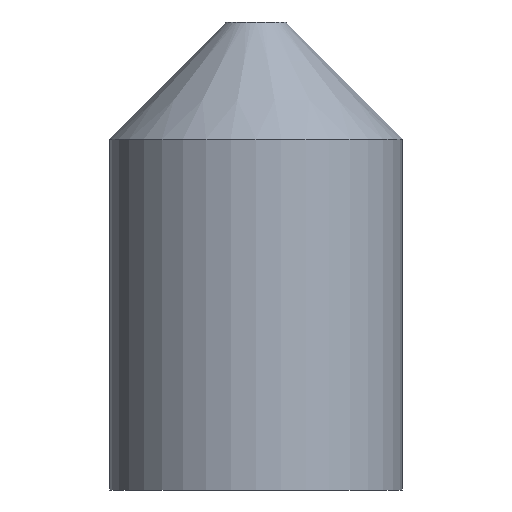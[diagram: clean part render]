
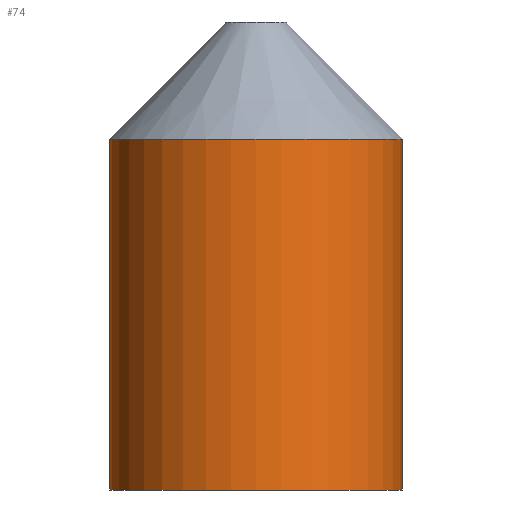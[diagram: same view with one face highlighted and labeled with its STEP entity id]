
A CAD part, front view. The second image highlights one B-rep face of the part: STEP entity #74.
In plain terms, the highlighted cylindrical face has radius 2.5 mm (diameter 5 mm), a partial arc.
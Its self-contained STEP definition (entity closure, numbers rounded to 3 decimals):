
#2 = DIRECTION ( 'NONE',  ( -1., 0., 0. ) ) ;
#3 = CARTESIAN_POINT ( 'NONE',  ( -6.221, 7.015, 8. ) ) ;
#4 = EDGE_CURVE ( 'NONE', #25, #109, #34, .T. ) ;
#9 = AXIS2_PLACEMENT_3D ( 'NONE', #243, #332, #408 ) ;
#23 = VECTOR ( 'NONE', #254, 1000. ) ;
#25 = VERTEX_POINT ( 'NONE', #241 ) ;
#34 = CIRCLE ( 'NONE', #9, 2.5 ) ;
#35 = DIRECTION ( 'NONE',  ( 0., 0., 1. ) ) ;
#63 = CARTESIAN_POINT ( 'NONE',  ( -11.221, 7.015, 6. ) ) ;
#64 = CARTESIAN_POINT ( 'NONE',  ( -8.721, 7.015, 0. ) ) ;
#65 = DIRECTION ( 'NONE',  ( 0., 0., -1. ) ) ;
#71 = EDGE_CURVE ( 'NONE', #276, #430, #238, .T. ) ;
#74 = ADVANCED_FACE ( 'NONE', ( #84 ), #288, .T. ) ;
#79 = AXIS2_PLACEMENT_3D ( 'NONE', #98, #131, #2 ) ;
#84 = FACE_OUTER_BOUND ( 'NONE', #191, .T. ) ;
#90 = VECTOR ( 'NONE', #65, 1000. ) ;
#98 = CARTESIAN_POINT ( 'NONE',  ( -8.721, 7.015, 8. ) ) ;
#100 = EDGE_CURVE ( 'NONE', #25, #430, #423, .T. ) ;
#106 = ORIENTED_EDGE ( 'NONE', *, *, #100, .F. ) ;
#109 = VERTEX_POINT ( 'NONE', #63 ) ;
#117 = CARTESIAN_POINT ( 'NONE',  ( -11.221, 7.015, 0. ) ) ;
#131 = DIRECTION ( 'NONE',  ( 0., 0., -1. ) ) ;
#161 = ORIENTED_EDGE ( 'NONE', *, *, #182, .T. ) ;
#182 = EDGE_CURVE ( 'NONE', #109, #276, #313, .T. ) ;
#191 = EDGE_LOOP ( 'NONE', ( #106, #345, #161, #355 ) ) ;
#238 = CIRCLE ( 'NONE', #349, 2.5 ) ;
#241 = CARTESIAN_POINT ( 'NONE',  ( -6.221, 7.015, 6. ) ) ;
#243 = CARTESIAN_POINT ( 'NONE',  ( -8.721, 7.015, 6. ) ) ;
#254 = DIRECTION ( 'NONE',  ( 0., 0., -1. ) ) ;
#276 = VERTEX_POINT ( 'NONE', #117 ) ;
#288 = CYLINDRICAL_SURFACE ( 'NONE', #79, 2.5 ) ;
#303 = DIRECTION ( 'NONE',  ( 1., 0., 0. ) ) ;
#313 = LINE ( 'NONE', #356, #23 ) ;
#332 = DIRECTION ( 'NONE',  ( 0., 0., -1. ) ) ;
#345 = ORIENTED_EDGE ( 'NONE', *, *, #4, .T. ) ;
#349 = AXIS2_PLACEMENT_3D ( 'NONE', #64, #35, #303 ) ;
#355 = ORIENTED_EDGE ( 'NONE', *, *, #71, .T. ) ;
#356 = CARTESIAN_POINT ( 'NONE',  ( -11.221, 7.015, 8. ) ) ;
#367 = CARTESIAN_POINT ( 'NONE',  ( -6.221, 7.015, 0. ) ) ;
#408 = DIRECTION ( 'NONE',  ( 1., 0., 0. ) ) ;
#423 = LINE ( 'NONE', #3, #90 ) ;
#430 = VERTEX_POINT ( 'NONE', #367 ) ;
